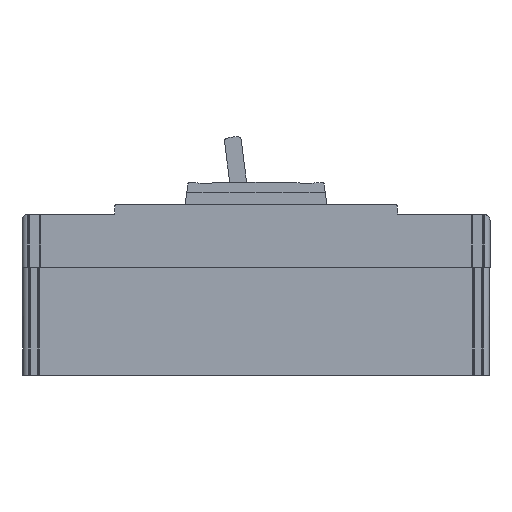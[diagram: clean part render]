
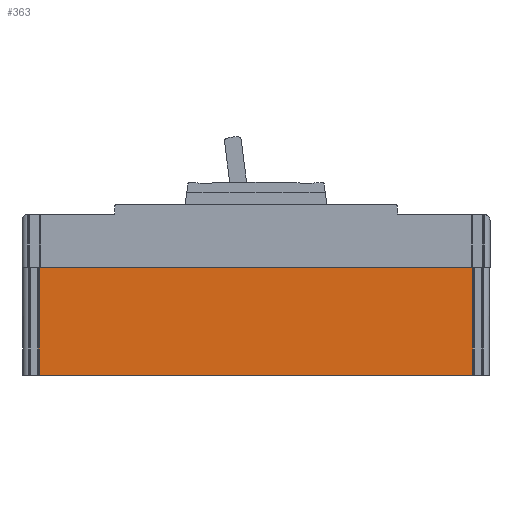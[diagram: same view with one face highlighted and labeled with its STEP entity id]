
A CAD part, left-side view. The second image highlights one B-rep face of the part: STEP entity #363.
In plain terms, the highlighted planar face has unit normal (-1, 0, 0).
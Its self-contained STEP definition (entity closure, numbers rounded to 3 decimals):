
#106 = FACE_OUTER_BOUND ( 'NONE', #5637, .T. ) ;
#202 = DIRECTION ( 'NONE',  ( 0., 0., 1. ) ) ;
#283 = VECTOR ( 'NONE', #8988, 1000. ) ;
#363 = ADVANCED_FACE ( 'NONE', ( #106 ), #8501, .T. ) ;
#709 = LINE ( 'NONE', #18778, #12602 ) ;
#972 = LINE ( 'NONE', #16807, #2750 ) ;
#1379 = VECTOR ( 'NONE', #5143, 1000. ) ;
#1737 = EDGE_CURVE ( 'NONE', #13415, #11698, #13685, .T. ) ;
#2024 = VECTOR ( 'NONE', #12425, 1000. ) ;
#2690 = CARTESIAN_POINT ( 'NONE',  ( -52.2, 0., 38. ) ) ;
#2750 = VECTOR ( 'NONE', #12193, 1000. ) ;
#2752 = EDGE_CURVE ( 'NONE', #11698, #6712, #12901, .T. ) ;
#4164 = CARTESIAN_POINT ( 'NONE',  ( -52.2, -76.4, 38. ) ) ;
#4540 = ORIENTED_EDGE ( 'NONE', *, *, #1737, .F. ) ;
#5143 = DIRECTION ( 'NONE',  ( 0., 0., -1. ) ) ;
#5198 = CARTESIAN_POINT ( 'NONE',  ( -52.2, 76.4, 0. ) ) ;
#5306 = VERTEX_POINT ( 'NONE', #12986 ) ;
#5476 = VECTOR ( 'NONE', #12494, 1000. ) ;
#5637 = EDGE_LOOP ( 'NONE', ( #14739, #19391, #4540, #12936, #18291, #12085 ) ) ;
#6597 = CARTESIAN_POINT ( 'NONE',  ( -52.2, -76.083, 38. ) ) ;
#6712 = VERTEX_POINT ( 'NONE', #5198 ) ;
#7206 = EDGE_CURVE ( 'NONE', #14702, #14680, #972, .T. ) ;
#7355 = CARTESIAN_POINT ( 'NONE',  ( -52.2, -76.4, 202.231 ) ) ;
#8284 = CARTESIAN_POINT ( 'NONE',  ( -52.2, 0., 202.231 ) ) ;
#8501 = PLANE ( 'NONE',  #14345 ) ;
#8988 = DIRECTION ( 'NONE',  ( 0., 0., -1. ) ) ;
#10090 = DIRECTION ( 'NONE',  ( -1., 0., 0. ) ) ;
#10810 = CARTESIAN_POINT ( 'NONE',  ( -52.2, 0., 0. ) ) ;
#11427 = CARTESIAN_POINT ( 'NONE',  ( -52.2, 76.083, 38. ) ) ;
#11698 = VERTEX_POINT ( 'NONE', #14627 ) ;
#12085 = ORIENTED_EDGE ( 'NONE', *, *, #14138, .F. ) ;
#12193 = DIRECTION ( 'NONE',  ( 0., -1., 0. ) ) ;
#12425 = DIRECTION ( 'NONE',  ( 0., 1., 0. ) ) ;
#12494 = DIRECTION ( 'NONE',  ( 0., -1., 0. ) ) ;
#12602 = VECTOR ( 'NONE', #12630, 1000. ) ;
#12630 = DIRECTION ( 'NONE',  ( 0., -1., 0. ) ) ;
#12901 = LINE ( 'NONE', #10810, #2024 ) ;
#12936 = ORIENTED_EDGE ( 'NONE', *, *, #13507, .F. ) ;
#12986 = CARTESIAN_POINT ( 'NONE',  ( -52.2, 76.4, 38. ) ) ;
#13378 = CARTESIAN_POINT ( 'NONE',  ( -52.2, 76.4, 202.231 ) ) ;
#13415 = VERTEX_POINT ( 'NONE', #4164 ) ;
#13507 = EDGE_CURVE ( 'NONE', #14680, #13415, #709, .T. ) ;
#13535 = LINE ( 'NONE', #13378, #1379 ) ;
#13685 = LINE ( 'NONE', #7355, #283 ) ;
#14138 = EDGE_CURVE ( 'NONE', #5306, #14702, #18895, .T. ) ;
#14345 = AXIS2_PLACEMENT_3D ( 'NONE', #8284, #10090, #202 ) ;
#14627 = CARTESIAN_POINT ( 'NONE',  ( -52.2, -76.4, 0. ) ) ;
#14680 = VERTEX_POINT ( 'NONE', #6597 ) ;
#14702 = VERTEX_POINT ( 'NONE', #11427 ) ;
#14739 = ORIENTED_EDGE ( 'NONE', *, *, #15363, .T. ) ;
#15363 = EDGE_CURVE ( 'NONE', #5306, #6712, #13535, .T. ) ;
#16807 = CARTESIAN_POINT ( 'NONE',  ( -52.2, 0., 38. ) ) ;
#18291 = ORIENTED_EDGE ( 'NONE', *, *, #7206, .F. ) ;
#18778 = CARTESIAN_POINT ( 'NONE',  ( -52.2, 0., 38. ) ) ;
#18895 = LINE ( 'NONE', #2690, #5476 ) ;
#19391 = ORIENTED_EDGE ( 'NONE', *, *, #2752, .F. ) ;
